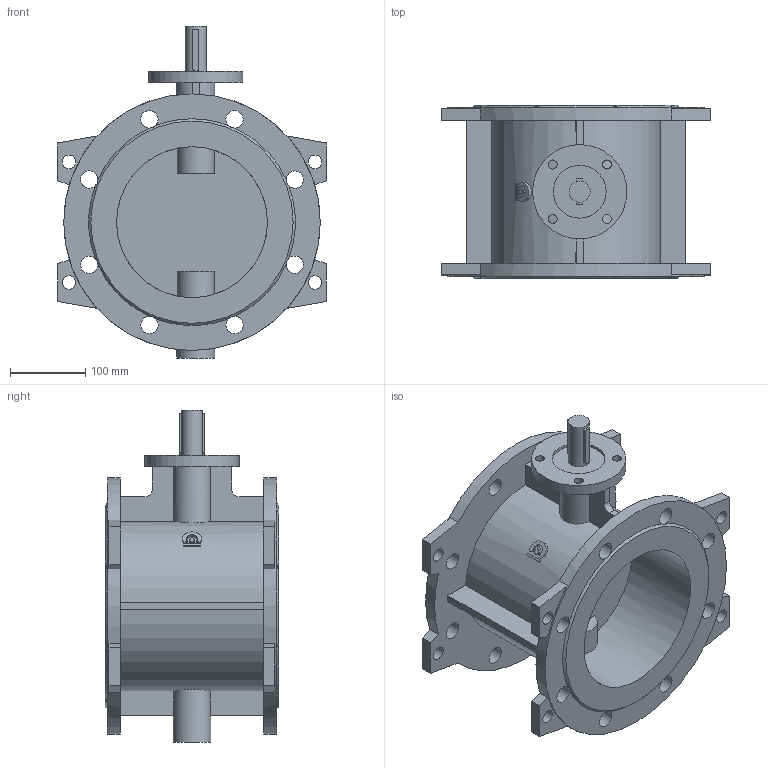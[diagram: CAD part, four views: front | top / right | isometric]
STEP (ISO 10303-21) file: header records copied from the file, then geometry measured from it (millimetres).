
FILE_DESCRIPTION(('STEP AP203'), '1');
FILE_NAME('Çàòâîð 023F.Z DN200 PN10_èñï', '', ('UNSPECIFIED'), ('UNSPECIFIED'), 'ASCON STEP Converter 1.6', 'ASCON Math Kernel', '');
FILE_SCHEMA(('CONFIG_CONTROL_DESIGN'));
Length unit declared in the file: millimetre
Bounding box: 356 x 230 x 440 mm (x, y, z)
Volume: 5473705.9 mm3; surface area: 726574.4 mm2
Topology: 1 solids, 1 shells, 142 faces, 429 edges, 286 vertices
Faces by surface type: plane 85, cylinder 55, cone 2
Full cylindrical faces by diameter (mm): 12 x4, 18 x8, 23 x16, 28 x1, 50 x1, 70 x1, 125 x1, 200 x2, 340 x2
Entity records: 8068 total; most frequent: CARTESIAN_POINT 2996, DIRECTION 798, ORIENTED_EDGE 780, EDGE_CURVE 390, AXIS2_PLACEMENT_3D 300, VERTEX_POINT 286, EDGE_LOOP 234, LINE 198
